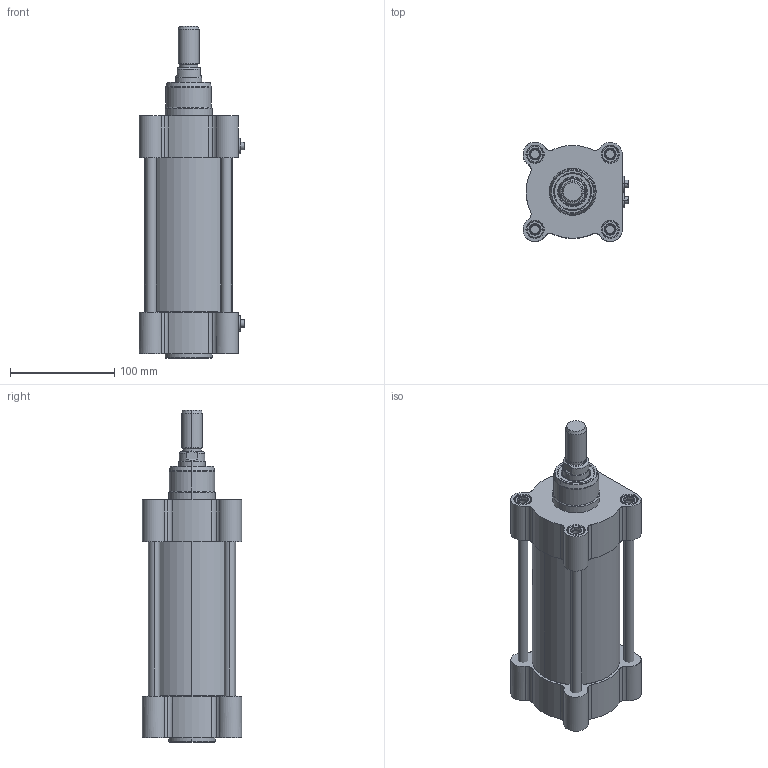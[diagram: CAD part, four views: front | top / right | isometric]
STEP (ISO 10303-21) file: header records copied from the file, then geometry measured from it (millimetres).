
FILE_DESCRIPTION (( 'STEP AP203' ), '1' );
FILE_NAME ('CTMI80-100.STEP', '2020-03-26T19:39:18', ( '' ), ( '' ), 'SwSTEP 2.0', 'SolidWorks 2019', '' );
FILE_SCHEMA (( 'CONFIG_CONTROL_DESIGN' ));
Length unit declared in the file: millimetre
Products named in the file (1): CTMI80-100
Bounding box: 101.5 x 95 x 318 mm (x, y, z)
Surface area: 233073.7 mm2 (no closed solid volume)
Topology: 0 solids, 26 shells, 731 faces, 1682 edges, 1038 vertices
Faces by surface type: cone 230, cylinder 204, plane 195, torus 86, bspline 16
Entity records: 28025 total; most frequent: CARTESIAN_POINT 12647, ORIENTED_EDGE 3308, DIRECTION 2906, EDGE_CURVE 1682, AXIS2_PLACEMENT_3D 1202, VERTEX_POINT 1038, EDGE_LOOP 804, FACE_OUTER_BOUND 731
